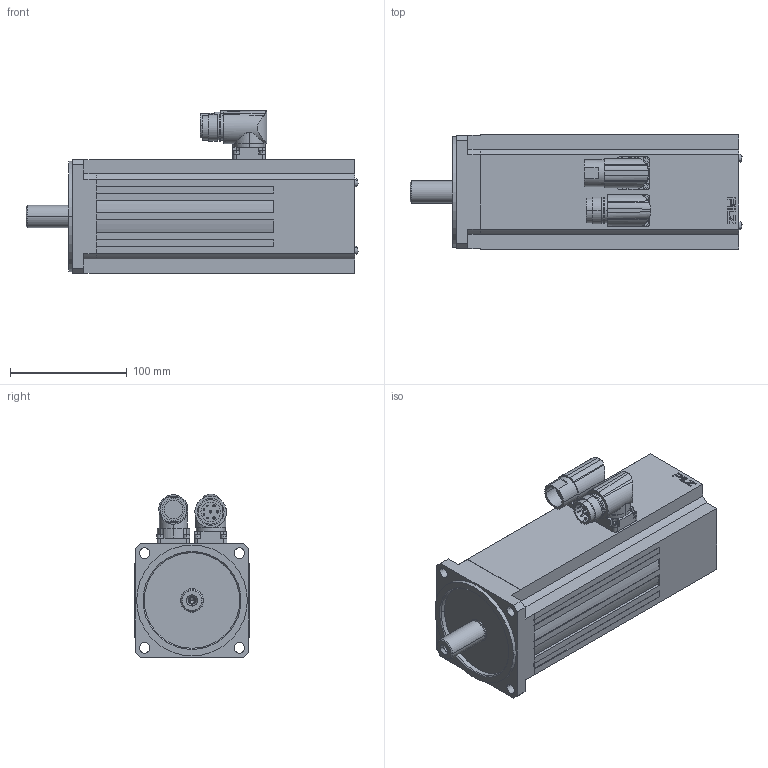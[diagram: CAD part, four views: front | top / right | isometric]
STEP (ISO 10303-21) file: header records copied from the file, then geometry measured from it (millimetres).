
FILE_DESCRIPTION((''),'2;1');
FILE_NAME('2027167','2018-09-05T',('smayer'),(''),'PRO/ENGINEER BY PARAMETRIC TECHNOLOGY CORPORATION, 2015110','PRO/ENGINEER BY PARAMETRIC TECHNOLOGY CORPORATION, 2015110','');
FILE_SCHEMA(('AUTOMOTIVE_DESIGN { 1 0 10303 214 1 1 1 1 }'));
Length unit declared in the file: millimetre
Products named in the file (1): 2027167
Bounding box: 284.83 x 98 x 140 mm (x, y, z)
Surface area: 134613.4 mm2 (no closed solid volume)
Topology: 0 solids, 14 shells, 383 faces, 1106 edges, 761 vertices
Faces by surface type: plane 211, cylinder 130, cone 30, bspline 12
Entity records: 19858 total; most frequent: CARTESIAN_POINT 3530, DIRECTION 2086, ORIENTED_EDGE 1994, PRESENTATION_STYLE_ASSIGNMENT 1489, STYLED_ITEM 1106, CURVE_STYLE 1105, EDGE_CURVE 1099, VERTEX_POINT 751
